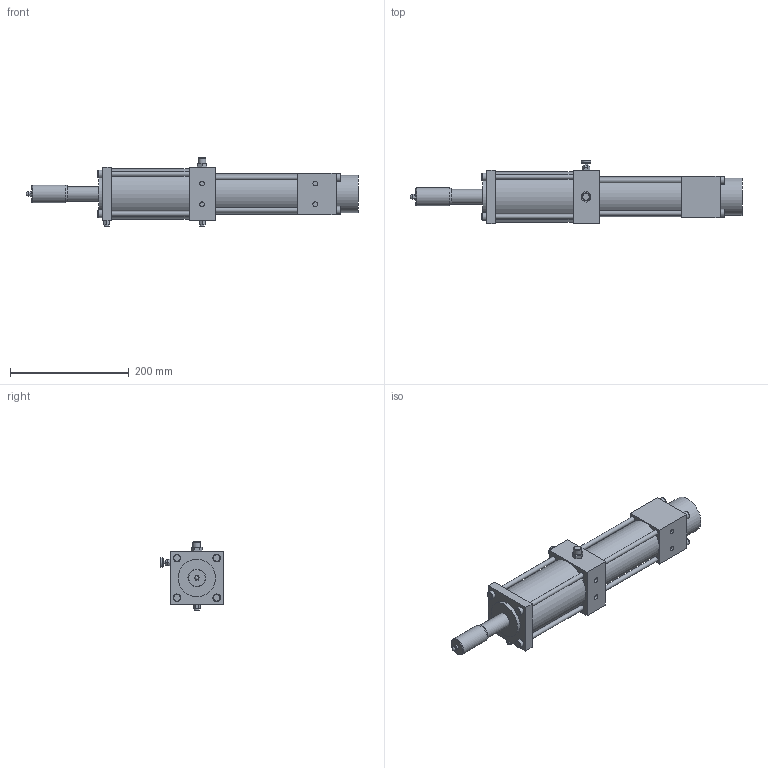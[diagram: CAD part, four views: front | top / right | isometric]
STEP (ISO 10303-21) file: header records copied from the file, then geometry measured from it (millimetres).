
FILE_DESCRIPTION (( 'STEP AP214' ), '1' );
FILE_NAME ('DAV900.STEP', '2024-10-11T10:20:42', ( '' ), ( '' ), 'SwSTEP 2.0', 'SolidWorks 2024', '' );
FILE_SCHEMA (( 'AUTOMOTIVE_DESIGN' ));
Length unit declared in the file: millimetre
Products named in the file (1): DAV900
Bounding box: 560 x 106.3 x 116.5 mm (x, y, z)
Volume: 2312645 mm3; surface area: 178511.3 mm2
Topology: 1 solids, 1 shells, 133 faces, 292 edges, 190 vertices
Faces by surface type: plane 86, cylinder 33, cone 13, bspline 1
Full cylindrical faces by diameter (mm): 5 x1, 7 x1, 8 x14, 13 x8, 13.1 x1, 16 x1, 16.6 x1, 25 x1, 30 x1, 63 x2, 68 x1, 85 x1
Entity records: 3330 total; most frequent: DIRECTION 580, CARTESIAN_POINT 553, ORIENTED_EDGE 458, EDGE_CURVE 229, EDGE_LOOP 226, AXIS2_PLACEMENT_3D 218, VERTEX_POINT 175, FACE_OUTER_BOUND 166
